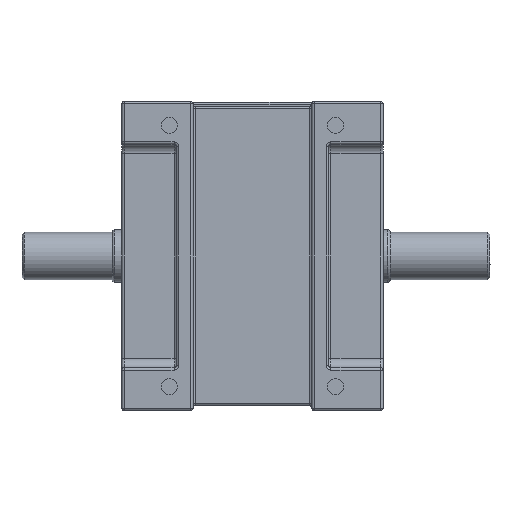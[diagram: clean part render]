
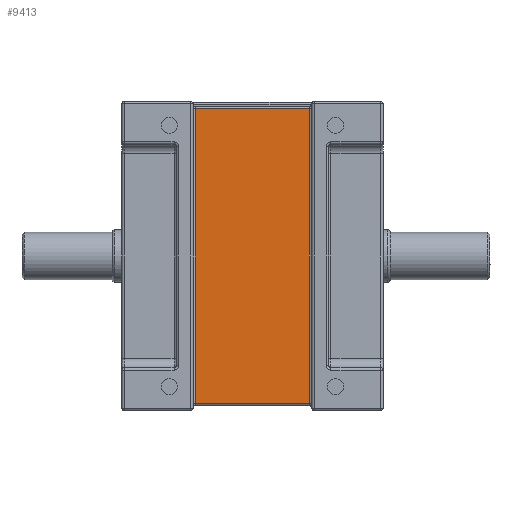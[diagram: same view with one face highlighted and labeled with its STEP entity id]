
A CAD part, front view. The second image highlights one B-rep face of the part: STEP entity #9413.
In plain terms, the highlighted planar face has unit normal (0, -1, 0).
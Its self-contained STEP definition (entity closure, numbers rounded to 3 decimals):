
#1740=DIRECTION('',(0.,0.,1.));
#1741=VECTOR('',#1740,124.);
#1742=CARTESIAN_POINT('',(24.,-93.,-127.));
#1743=LINE('',#1742,#1741);
#1744=DIRECTION('',(-1.,0.,0.));
#1745=VECTOR('',#1744,48.);
#1746=CARTESIAN_POINT('',(24.,-93.,-127.));
#1747=LINE('',#1746,#1745);
#1748=DIRECTION('',(0.,0.,-1.));
#1749=VECTOR('',#1748,124.);
#1750=CARTESIAN_POINT('',(-24.,-93.,-3.));
#1751=LINE('',#1750,#1749);
#1752=DIRECTION('',(1.,0.,0.));
#1753=VECTOR('',#1752,48.);
#1754=CARTESIAN_POINT('',(-24.,-93.,-3.));
#1755=LINE('',#1754,#1753);
#6296=CARTESIAN_POINT('',(24.,-93.,-3.));
#6297=VERTEX_POINT('',#6296);
#6300=CARTESIAN_POINT('',(24.,-93.,-127.));
#6301=VERTEX_POINT('',#6300);
#6314=CARTESIAN_POINT('',(-24.,-93.,-127.));
#6315=VERTEX_POINT('',#6314);
#6318=CARTESIAN_POINT('',(-24.,-93.,-3.));
#6319=VERTEX_POINT('',#6318);
#9400=CARTESIAN_POINT('',(0.,-93.,0.));
#9401=DIRECTION('',(0.,-1.,0.));
#9402=DIRECTION('',(1.,0.,0.));
#9403=AXIS2_PLACEMENT_3D('',#9400,#9401,#9402);
#9404=PLANE('',#9403);
#9405=ORIENTED_EDGE('',*,*,#9282,.F.);
#9407=ORIENTED_EDGE('',*,*,#9406,.T.);
#9409=ORIENTED_EDGE('',*,*,#9408,.F.);
#9410=ORIENTED_EDGE('',*,*,#9392,.T.);
#9411=EDGE_LOOP('',(#9405,#9407,#9409,#9410));
#9412=FACE_OUTER_BOUND('',#9411,.F.);
#9282=EDGE_CURVE('',#6301,#6297,#1743,.T.);
#9392=EDGE_CURVE('',#6319,#6297,#1755,.T.);
#9406=EDGE_CURVE('',#6301,#6315,#1747,.T.);
#9408=EDGE_CURVE('',#6319,#6315,#1751,.T.);
#9413=ADVANCED_FACE('',(#9412),#9404,.T.);
